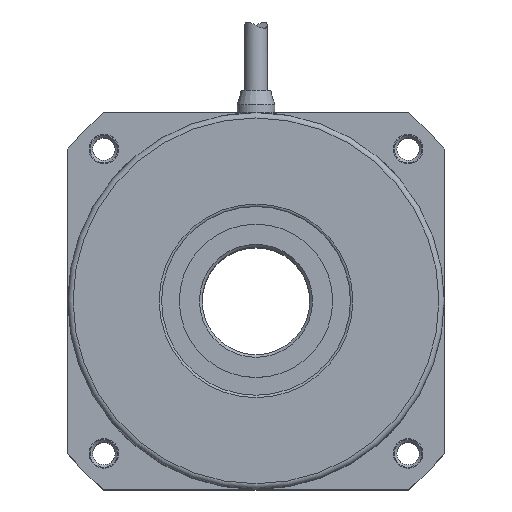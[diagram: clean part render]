
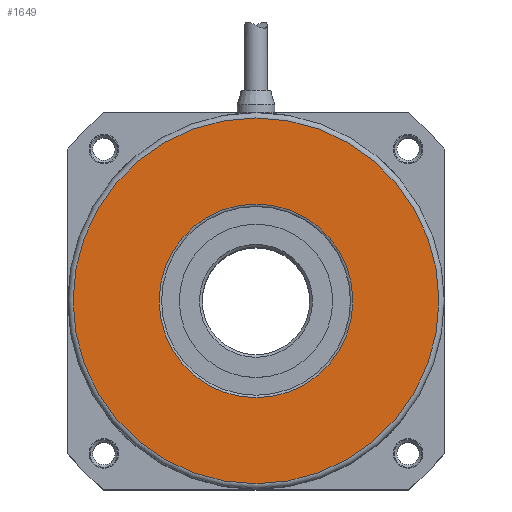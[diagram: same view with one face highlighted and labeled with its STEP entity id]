
A CAD part, top view. The second image highlights one B-rep face of the part: STEP entity #1649.
In plain terms, the highlighted planar face has unit normal (0, 0, 1).
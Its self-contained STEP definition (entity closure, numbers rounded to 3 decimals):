
#1649=ADVANCED_FACE('',(#3076,#3077),#3078,.F.);
#3076=FACE_OUTER_BOUND('',#4641,.T.);
#3077=FACE_BOUND('',#4642,.T.);
#3078=PLANE('',#4643);
#4641=EDGE_LOOP('',(#8514));
#4642=EDGE_LOOP('',(#8515));
#4643=AXIS2_PLACEMENT_3D('',#8516,#8517,#8518);
#8514=ORIENTED_EDGE('',*,*,#10344,.T.);
#8515=ORIENTED_EDGE('',*,*,#10345,.T.);
#8516=CARTESIAN_POINT('',(26.25,0.,45.4));
#8517=DIRECTION('',(0.0,0.0,-1.0));
#8518=DIRECTION('',(-1.0,0.0,0.0));
#10344=EDGE_CURVE('',#12458,#12458,#12459,.F.);
#10345=EDGE_CURVE('',#12460,#12460,#12461,.T.);
#12458=VERTEX_POINT('',#15955);
#12459=CIRCLE('',#15956,34.0);
#12460=VERTEX_POINT('',#15957);
#12461=CIRCLE('',#15958,18.0);
#15955=CARTESIAN_POINT('',(-34.,0.,45.4));
#15956=AXIS2_PLACEMENT_3D('',#18554,#18555,#18556);
#15957=CARTESIAN_POINT('',(-18.,0.,45.4));
#15958=AXIS2_PLACEMENT_3D('',#18557,#18558,#18559);
#18554=CARTESIAN_POINT('',(0.,0.,45.4));
#18555=DIRECTION('',(0.0,0.0,-1.0));
#18556=DIRECTION('',(-1.0,0.0,0.0));
#18557=CARTESIAN_POINT('',(0.,0.,45.4));
#18558=DIRECTION('',(0.0,0.0,-1.0));
#18559=DIRECTION('',(-1.0,0.0,0.0));
